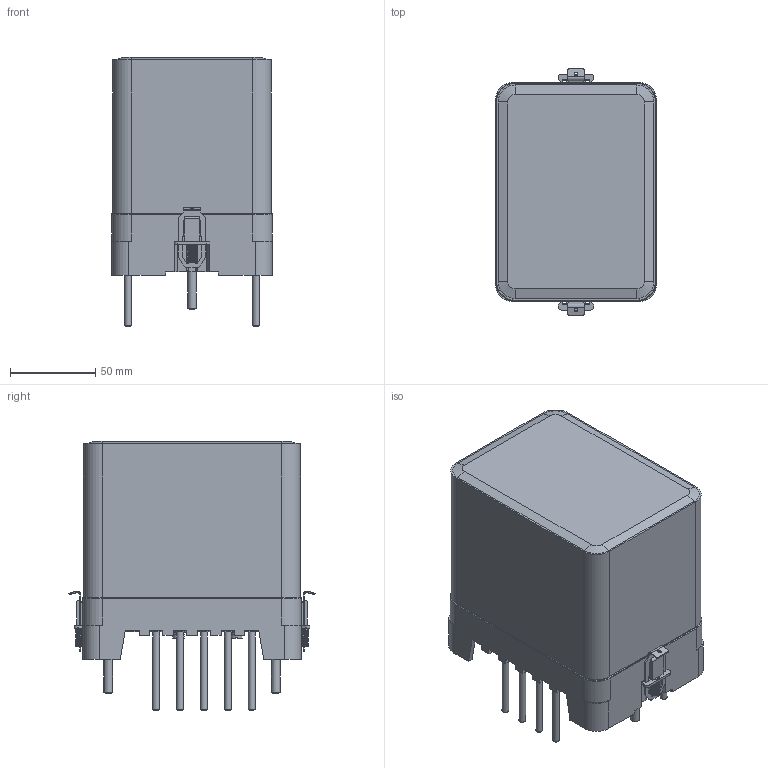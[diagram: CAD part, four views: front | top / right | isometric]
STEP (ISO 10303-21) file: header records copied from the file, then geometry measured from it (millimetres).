
FILE_DESCRIPTION(('STEP AP214'), '1');
FILE_NAME('ÐÂ112, ÐÂ128, ÐÂ132, ÐÂ142 ç.ï.øï', '', ('UNSPECIFIED'), ('UNSPECIFIED'), 'ASCON STEP Converter 1.3', 'ASCON Math Kernel', '');
FILE_SCHEMA(('AUTOMOTIVE_DESIGN { 1 0 10303 214 3 1 1}'));
Length unit declared in the file: millimetre
Bounding box: 94 x 144 x 157.5 mm (x, y, z)
Volume: 227749.2 mm3; surface area: 158935.8 mm2
Topology: 2 solids, 2 shells, 994 faces, 2507 edges, 1540 vertices
Faces by surface type: plane 559, cylinder 281, torus 76, cone 41, sphere 31, bspline 6
Full cylindrical faces by diameter (mm): 2 x2, 3.3 x9, 3.5 x2, 4 x20, 4.3 x2, 4.5 x2, 5 x2, 5.5 x16, 8 x2, 11 x2
Entity records: 45646 total; most frequent: CARTESIAN_POINT 14078, DIRECTION 4972, ORIENTED_EDGE 4728, EDGE_CURVE 2364, AXIS2_PLACEMENT_3D 1706, LINE 1560, VECTOR 1560, VERTEX_POINT 1534
